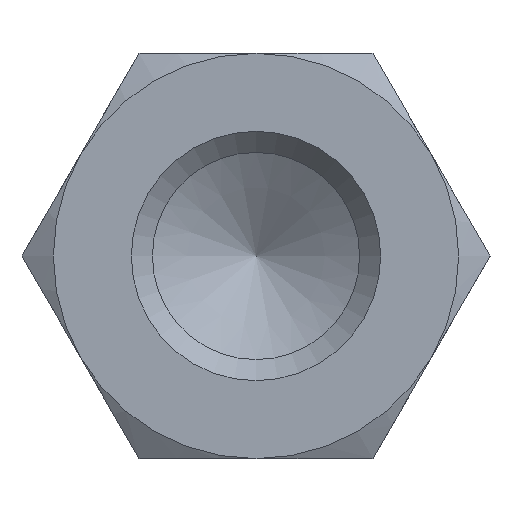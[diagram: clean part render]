
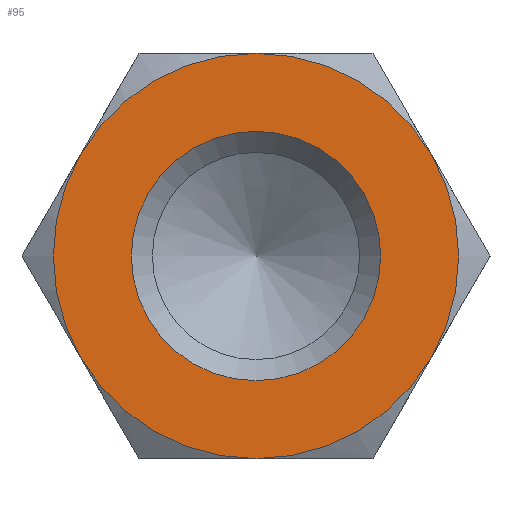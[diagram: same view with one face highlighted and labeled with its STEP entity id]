
A CAD part, left-side view. The second image highlights one B-rep face of the part: STEP entity #95.
In plain terms, the highlighted planar face has unit normal (-1, 0, 0).
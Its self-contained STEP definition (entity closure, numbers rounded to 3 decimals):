
#95 = ADVANCED_FACE( '', ( #147, #148 ), #149, .F. );
#147 = FACE_OUTER_BOUND( '', #206, .T. );
#148 = FACE_BOUND( '', #207, .T. );
#149 = PLANE( '', #208 );
#206 = EDGE_LOOP( '', ( #356, #357, #358, #359, #360, #361 ) );
#207 = EDGE_LOOP( '', ( #362 ) );
#208 = AXIS2_PLACEMENT_3D( '', #363, #364, #365 );
#356 = ORIENTED_EDGE( '', *, *, #440, .F. );
#357 = ORIENTED_EDGE( '', *, *, #425, .F. );
#358 = ORIENTED_EDGE( '', *, *, #441, .F. );
#359 = ORIENTED_EDGE( '', *, *, #437, .F. );
#360 = ORIENTED_EDGE( '', *, *, #442, .F. );
#361 = ORIENTED_EDGE( '', *, *, #443, .F. );
#362 = ORIENTED_EDGE( '', *, *, #439, .T. );
#363 = CARTESIAN_POINT( '', ( -20., 0., 0. ) );
#364 = DIRECTION( '', ( 1., 0., 0. ) );
#365 = DIRECTION( '', ( 0., 0., -1. ) );
#425 = EDGE_CURVE( '', #495, #493, #497, .T. );
#437 = EDGE_CURVE( '', #447, #506, #513, .T. );
#439 = EDGE_CURVE( '', #516, #516, #517, .T. );
#440 = EDGE_CURVE( '', #493, #486, #518, .T. );
#441 = EDGE_CURVE( '', #506, #495, #519, .T. );
#442 = EDGE_CURVE( '', #481, #447, #520, .T. );
#443 = EDGE_CURVE( '', #486, #481, #521, .T. );
#447 = VERTEX_POINT( '', #525 );
#481 = VERTEX_POINT( '', #607 );
#486 = VERTEX_POINT( '', #623 );
#493 = VERTEX_POINT( '', #650 );
#495 = VERTEX_POINT( '', #657 );
#497 = CIRCLE( '', #664, 6.5 );
#506 = VERTEX_POINT( '', #690 );
#513 = CIRCLE( '', #733, 6.5 );
#516 = VERTEX_POINT( '', #736 );
#517 = CIRCLE( '', #737, 4. );
#518 = CIRCLE( '', #738, 6.5 );
#519 = CIRCLE( '', #739, 6.5 );
#520 = CIRCLE( '', #740, 6.5 );
#521 = CIRCLE( '', #741, 6.5 );
#525 = CARTESIAN_POINT( '', ( -20., -5.629, 3.25 ) );
#607 = CARTESIAN_POINT( '', ( -20., 0., 6.5 ) );
#623 = CARTESIAN_POINT( '', ( -20., 5.629, 3.25 ) );
#650 = CARTESIAN_POINT( '', ( -20., 5.629, -3.25 ) );
#657 = CARTESIAN_POINT( '', ( -20., 0., -6.5 ) );
#664 = AXIS2_PLACEMENT_3D( '', #776, #777, #778 );
#690 = CARTESIAN_POINT( '', ( -20., -5.629, -3.25 ) );
#733 = AXIS2_PLACEMENT_3D( '', #781, #782, #783 );
#736 = CARTESIAN_POINT( '', ( -20., 4., 0. ) );
#737 = AXIS2_PLACEMENT_3D( '', #787, #788, #789 );
#738 = AXIS2_PLACEMENT_3D( '', #790, #791, #792 );
#739 = AXIS2_PLACEMENT_3D( '', #793, #794, #795 );
#740 = AXIS2_PLACEMENT_3D( '', #796, #797, #798 );
#741 = AXIS2_PLACEMENT_3D( '', #799, #800, #801 );
#776 = CARTESIAN_POINT( '', ( -20., 0., 0. ) );
#777 = DIRECTION( '', ( 1., 0., 0. ) );
#778 = DIRECTION( '', ( 0., 0., -1. ) );
#781 = CARTESIAN_POINT( '', ( -20., 0., 0. ) );
#782 = DIRECTION( '', ( 1., 0., 0. ) );
#783 = DIRECTION( '', ( 0., 0., -1. ) );
#787 = CARTESIAN_POINT( '', ( -20., 0., 0. ) );
#788 = DIRECTION( '', ( 1., 0., 0. ) );
#789 = DIRECTION( '', ( 0., 1., 0. ) );
#790 = CARTESIAN_POINT( '', ( -20., 0., 0. ) );
#791 = DIRECTION( '', ( 1., 0., 0. ) );
#792 = DIRECTION( '', ( 0., 0., -1. ) );
#793 = CARTESIAN_POINT( '', ( -20., 0., 0. ) );
#794 = DIRECTION( '', ( 1., 0., 0. ) );
#795 = DIRECTION( '', ( 0., 0., -1. ) );
#796 = CARTESIAN_POINT( '', ( -20., 0., 0. ) );
#797 = DIRECTION( '', ( 1., 0., 0. ) );
#798 = DIRECTION( '', ( 0., 0., -1. ) );
#799 = CARTESIAN_POINT( '', ( -20., 0., 0. ) );
#800 = DIRECTION( '', ( 1., 0., 0. ) );
#801 = DIRECTION( '', ( 0., 0., -1. ) );
